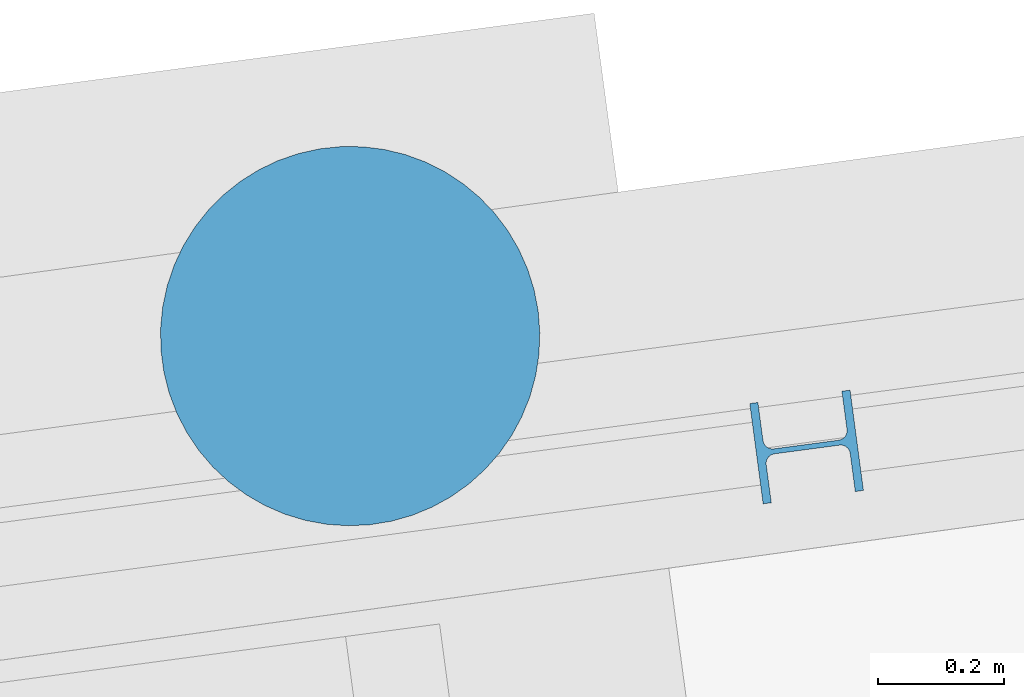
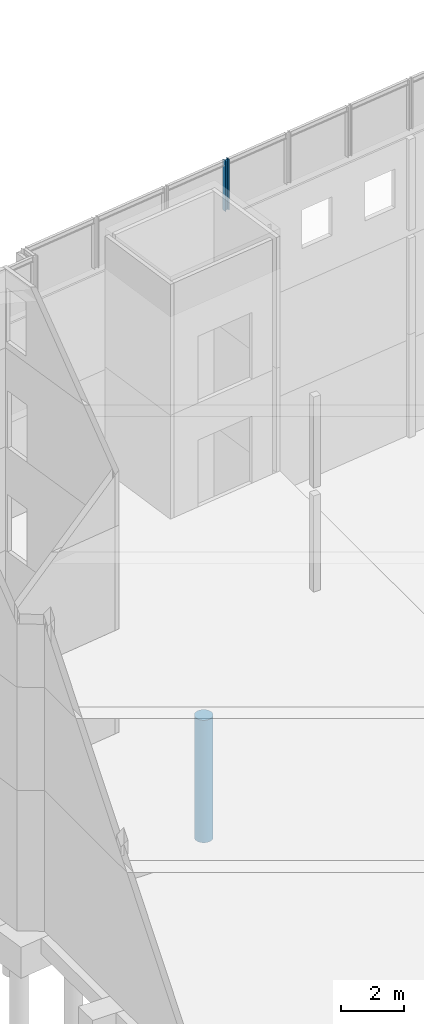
# One storey, part 24 of 82: 2 columns.
"""IFC2X3 building model written with IfcOpenShell, lengths in millimetres."""

from ifc_helpers import new_model, si_unit, frame, frame_2d, origin_with_axes, place, context, subcontext, project, spatial, circle, i_section, extrude, material, type_object, element, save


model = new_model("IFC2X3")

# Units and contexts
model_context = context("Model", 3, precision=1e-05, world=origin_with_axes())
body_context = subcontext(model_context, "Body", "Model", "MODEL_VIEW")
ifc_project = project(units=[si_unit("LENGTHUNIT", "METRE", prefix="MILLI"), si_unit("AREAUNIT", "SQUARE_METRE"), si_unit("VOLUMEUNIT", "CUBIC_METRE"), si_unit("MASSUNIT", "GRAM", prefix="KILO"), si_unit("TIMEUNIT", "SECOND"), si_unit("PLANEANGLEUNIT", "RADIAN"), si_unit("SOLIDANGLEUNIT", "STERADIAN"), si_unit("THERMODYNAMICTEMPERATUREUNIT", "DEGREE_CELSIUS"), si_unit("LUMINOUSINTENSITYUNIT", "LUMEN")], contexts=[model_context])

# Site, building, storey
site_placement = place(None, origin_with_axes())
site = spatial("IfcSite", under=ifc_project, at=site_placement, Name="Undefined", CompositionType="ELEMENT")
building_placement = place(site_placement, origin_with_axes())
building = spatial("IfcBuilding", under=site, at=building_placement, Name="Undefined", CompositionType="ELEMENT")
storey_placement = place(building_placement, origin_with_axes())
storey = spatial("IfcBuildingStorey", under=building, at=storey_placement, Name="Undefined", CompositionType="ELEMENT", Elevation=0.0)

# Columns
ifc_material_1 = material(Name="STEEL/S275JR")
column_type_1 = type_object("IfcColumnType", Name="HEB160", PredefinedType="NOTDEFINED")
column_1_placement = place(storey_placement, frame((12192.9553971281, 28473.484130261, 17160.0), z_axis=(0.0, 0.0, 1.0), x_axis=(1.0, 0.0, 0.0)))
element("IfcColumn", 1, at=column_1_placement, inside=storey, type_object=column_type_1, material=ifc_material_1, Name="POTEAU", ObjectType="HEB160", context=body_context, shape_type="SweptSolid", body=[
    extrude(i_section(OverallWidth=160.0, OverallDepth=160.0, WebThickness=8.0, FlangeThickness=13.0, FilletRadius=15.0, at=frame_2d((5.17284206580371e-08, 4.49290382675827e-10), x_axis=(1.0, 0.0))), frame((0.0, 0.0, 1965.0), z_axis=(0.0, -6.50000002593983e-08, -0.999999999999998), x_axis=(0.132256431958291, -0.991215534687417, 0.0)), (0.0, 0.0, 1.0), 1965.0),
])
ifc_material_2 = material(Name="CONCRETE/C25/30")
column_type_2 = type_object("IfcColumnType", Name="D600", PredefinedType="NOTDEFINED")
column_2_placement = place(storey_placement, frame((11471.1047458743, 28648.9127259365, -7025.0), z_axis=(0.0, 0.0, 1.0), x_axis=(1.0, 0.0, 0.0)))
element("IfcColumn", 2, at=column_2_placement, inside=storey, type_object=column_type_2, material=ifc_material_2, Name="PIEU", ObjectType="D600", context=body_context, shape_type="SweptSolid", body=[
    extrude(circle(Radius=300.0, at=frame_2d((5.17284206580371e-08, 4.49290382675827e-10), x_axis=(1.0, 0.0))), frame((0.0, 0.0, 4750.0), z_axis=(0.0, -6.50000002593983e-08, -0.999999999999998), x_axis=(0.99120961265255, 0.132300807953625, 0.0)), (0.0, 0.0, 1.0), 4750.0),
])

save(model, "model.ifc")
